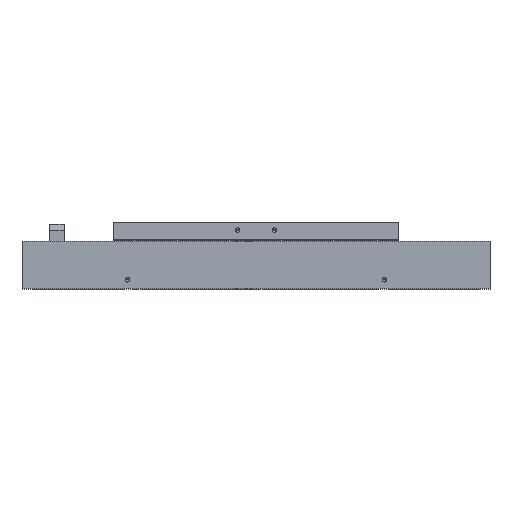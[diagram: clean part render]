
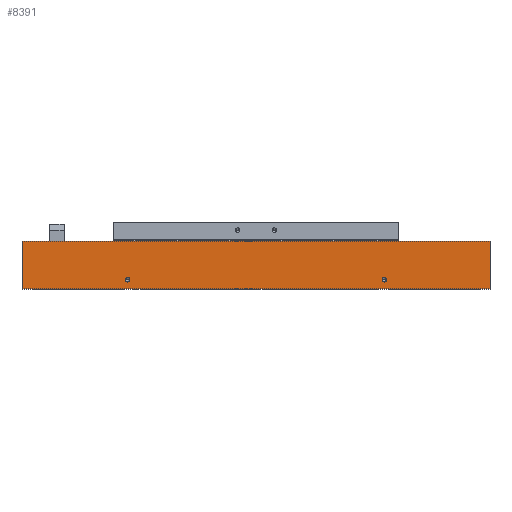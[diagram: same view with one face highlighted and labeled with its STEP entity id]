
A CAD part, top view. The second image highlights one B-rep face of the part: STEP entity #8391.
In plain terms, the highlighted planar face has unit normal (0, 0, 1).
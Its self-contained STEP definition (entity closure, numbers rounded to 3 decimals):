
#189 = EDGE_CURVE ( 'NONE', #14617, #16121, #12542, .T. ) ;
#267 = DIRECTION ( 'NONE',  ( 0., 0., -1. ) ) ;
#1387 = VERTEX_POINT ( 'NONE', #7604 ) ;
#1512 = EDGE_CURVE ( 'NONE', #12200, #20096, #21682, .T. ) ;
#1886 = CARTESIAN_POINT ( 'NONE',  ( -127.5, 26., 42.5 ) ) ;
#1907 = AXIS2_PLACEMENT_3D ( 'NONE', #6778, #17018, #18478 ) ;
#2015 = LINE ( 'NONE', #11979, #3145 ) ;
#2031 = CARTESIAN_POINT ( 'NONE',  ( -127.5, 26., 42.5 ) ) ;
#2144 = PLANE ( 'NONE',  #6707 ) ;
#2233 = DIRECTION ( 'NONE',  ( 1., 0., 0. ) ) ;
#2279 = ORIENTED_EDGE ( 'NONE', *, *, #189, .F. ) ;
#2411 = VECTOR ( 'NONE', #8692, 1000. ) ;
#2836 = DIRECTION ( 'NONE',  ( 0., 0., 1. ) ) ;
#3145 = VECTOR ( 'NONE', #12314, 1000. ) ;
#3288 = LINE ( 'NONE', #6716, #6459 ) ;
#3320 = EDGE_CURVE ( 'NONE', #16121, #21173, #2015, .T. ) ;
#3520 = DIRECTION ( 'NONE',  ( 0., 0., 1. ) ) ;
#4571 = CARTESIAN_POINT ( 'NONE',  ( -68.75, 5., 42.5 ) ) ;
#4985 = ORIENTED_EDGE ( 'NONE', *, *, #18250, .T. ) ;
#5490 = EDGE_LOOP ( 'NONE', ( #22114, #20980 ) ) ;
#5548 = CARTESIAN_POINT ( 'NONE',  ( -71.25, 5., 42.5 ) ) ;
#6459 = VECTOR ( 'NONE', #13336, 1000. ) ;
#6707 = AXIS2_PLACEMENT_3D ( 'NONE', #2031, #267, #12339 ) ;
#6716 = CARTESIAN_POINT ( 'NONE',  ( -127.5, 0., 42.5 ) ) ;
#6778 = CARTESIAN_POINT ( 'NONE',  ( 70., 5., 42.5 ) ) ;
#6809 = FACE_OUTER_BOUND ( 'NONE', #19583, .T. ) ;
#7481 = ORIENTED_EDGE ( 'NONE', *, *, #3320, .F. ) ;
#7507 = AXIS2_PLACEMENT_3D ( 'NONE', #12142, #3520, #8625 ) ;
#7604 = CARTESIAN_POINT ( 'NONE',  ( -127.5, 0., 42.5 ) ) ;
#7974 = AXIS2_PLACEMENT_3D ( 'NONE', #12842, #10728, #2233 ) ;
#8391 = ADVANCED_FACE ( 'NONE', ( #18838, #10642, #6809 ), #2144, .F. ) ;
#8489 = CIRCLE ( 'NONE', #7974, 1.25 ) ;
#8625 = DIRECTION ( 'NONE',  ( 1., 0., 0. ) ) ;
#8692 = DIRECTION ( 'NONE',  ( 0., -1., 0. ) ) ;
#8859 = EDGE_CURVE ( 'NONE', #13842, #9008, #8489, .T. ) ;
#8861 = CARTESIAN_POINT ( 'NONE',  ( 127.5, 26., 42.5 ) ) ;
#9008 = VERTEX_POINT ( 'NONE', #21648 ) ;
#9099 = CARTESIAN_POINT ( 'NONE',  ( 127.5, 0., 42.5 ) ) ;
#9495 = ORIENTED_EDGE ( 'NONE', *, *, #8859, .F. ) ;
#9615 = ORIENTED_EDGE ( 'NONE', *, *, #14045, .F. ) ;
#9637 = DIRECTION ( 'NONE',  ( 1., 0., 0. ) ) ;
#9907 = EDGE_CURVE ( 'NONE', #14617, #1387, #17245, .T. ) ;
#10636 = EDGE_CURVE ( 'NONE', #20096, #12200, #17592, .T. ) ;
#10642 = FACE_BOUND ( 'NONE', #12908, .T. ) ;
#10728 = DIRECTION ( 'NONE',  ( 0., 0., 1. ) ) ;
#10749 = DIRECTION ( 'NONE',  ( 1., 0., 0. ) ) ;
#11230 = AXIS2_PLACEMENT_3D ( 'NONE', #18191, #2836, #9637 ) ;
#11979 = CARTESIAN_POINT ( 'NONE',  ( 127.5, 26., 42.5 ) ) ;
#12142 = CARTESIAN_POINT ( 'NONE',  ( -70., 5., 42.5 ) ) ;
#12200 = VERTEX_POINT ( 'NONE', #4571 ) ;
#12314 = DIRECTION ( 'NONE',  ( 0., -1., 0. ) ) ;
#12339 = DIRECTION ( 'NONE',  ( -1., 0., 0. ) ) ;
#12435 = CARTESIAN_POINT ( 'NONE',  ( 71.25, 5., 42.5 ) ) ;
#12542 = LINE ( 'NONE', #15929, #14445 ) ;
#12842 = CARTESIAN_POINT ( 'NONE',  ( 70., 5., 42.5 ) ) ;
#12908 = EDGE_LOOP ( 'NONE', ( #9495, #9615 ) ) ;
#13336 = DIRECTION ( 'NONE',  ( 1., 0., 0. ) ) ;
#13842 = VERTEX_POINT ( 'NONE', #12435 ) ;
#14045 = EDGE_CURVE ( 'NONE', #9008, #13842, #18719, .T. ) ;
#14445 = VECTOR ( 'NONE', #10749, 1000. ) ;
#14617 = VERTEX_POINT ( 'NONE', #20935 ) ;
#15929 = CARTESIAN_POINT ( 'NONE',  ( -127.5, 26., 42.5 ) ) ;
#16121 = VERTEX_POINT ( 'NONE', #8861 ) ;
#17018 = DIRECTION ( 'NONE',  ( 0., 0., 1. ) ) ;
#17245 = LINE ( 'NONE', #1886, #2411 ) ;
#17431 = ORIENTED_EDGE ( 'NONE', *, *, #9907, .T. ) ;
#17592 = CIRCLE ( 'NONE', #7507, 1.25 ) ;
#18191 = CARTESIAN_POINT ( 'NONE',  ( -70., 5., 42.5 ) ) ;
#18250 = EDGE_CURVE ( 'NONE', #1387, #21173, #3288, .T. ) ;
#18478 = DIRECTION ( 'NONE',  ( 1., 0., 0. ) ) ;
#18719 = CIRCLE ( 'NONE', #1907, 1.25 ) ;
#18838 = FACE_BOUND ( 'NONE', #5490, .T. ) ;
#19583 = EDGE_LOOP ( 'NONE', ( #4985, #7481, #2279, #17431 ) ) ;
#20096 = VERTEX_POINT ( 'NONE', #5548 ) ;
#20935 = CARTESIAN_POINT ( 'NONE',  ( -127.5, 26., 42.5 ) ) ;
#20980 = ORIENTED_EDGE ( 'NONE', *, *, #10636, .F. ) ;
#21173 = VERTEX_POINT ( 'NONE', #9099 ) ;
#21648 = CARTESIAN_POINT ( 'NONE',  ( 68.75, 5., 42.5 ) ) ;
#21682 = CIRCLE ( 'NONE', #11230, 1.25 ) ;
#22114 = ORIENTED_EDGE ( 'NONE', *, *, #1512, .F. ) ;
